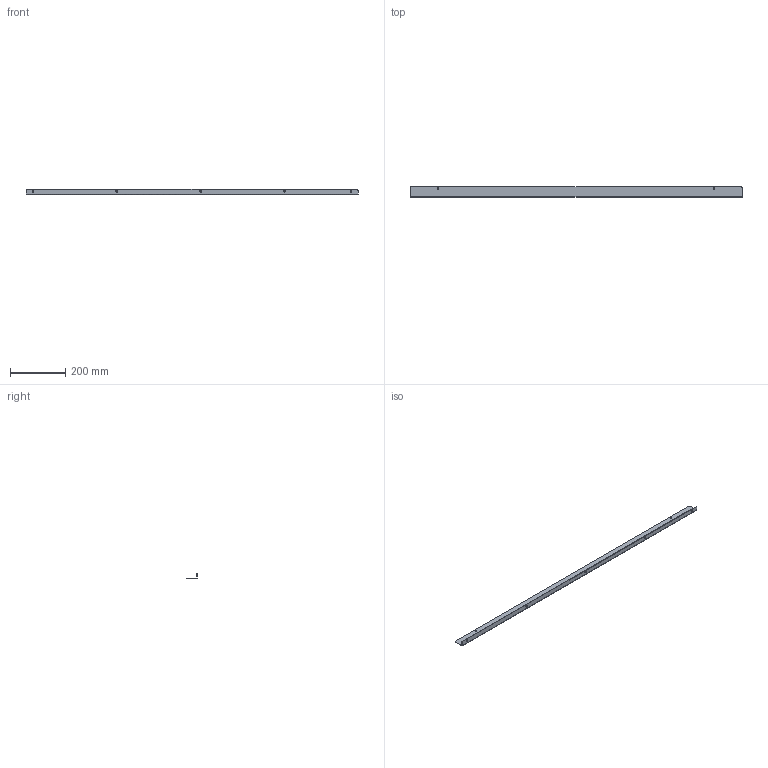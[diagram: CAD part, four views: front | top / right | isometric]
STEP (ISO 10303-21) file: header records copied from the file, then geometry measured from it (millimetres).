
FILE_DESCRIPTION((''),'2;1');
FILE_NAME('C:\Vault_Workspace\Inventor_Dwg\Inv-1\1100BA\WEBSITE\1100BA2048.stp','2015-02-02T15:06:54',('MichaelA'),(''),'Autodesk Inventor 2012','Autodesk Inventor 2012','');
FILE_SCHEMA(('AUTOMOTIVE_DESIGN { 1 0 10303 214 1 1 1 1 }'));
Length unit declared in the file: inch
Products named in the file (1): 1100BA-MASTER
Bounding box: 1206.5 x 38.1 x 19.05 mm (x, y, z)
Volume: 92559.8 mm3; surface area: 136225.6 mm2
Topology: 1 solids, 1 shells, 25 faces, 61 edges, 38 vertices
Faces by surface type: cylinder 13, plane 12
Full cylindrical faces by diameter (mm): 4.496 x2, 7.137 x5
Entity records: 758 total; most frequent: DIRECTION 132, CARTESIAN_POINT 118, ORIENTED_EDGE 108, EDGE_CURVE 54, AXIS2_PLACEMENT_3D 52, EDGE_LOOP 46, VERTEX_POINT 38, VECTOR 28
